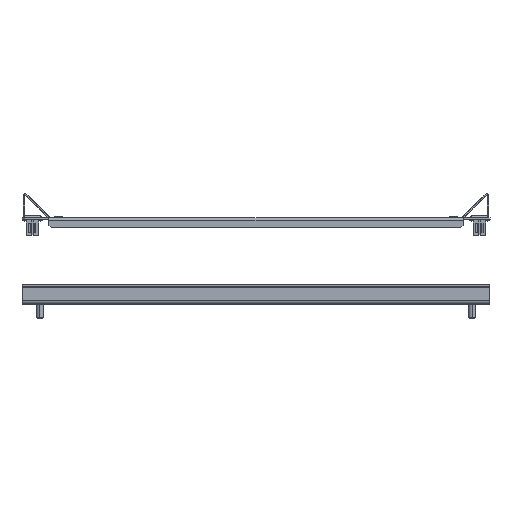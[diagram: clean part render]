
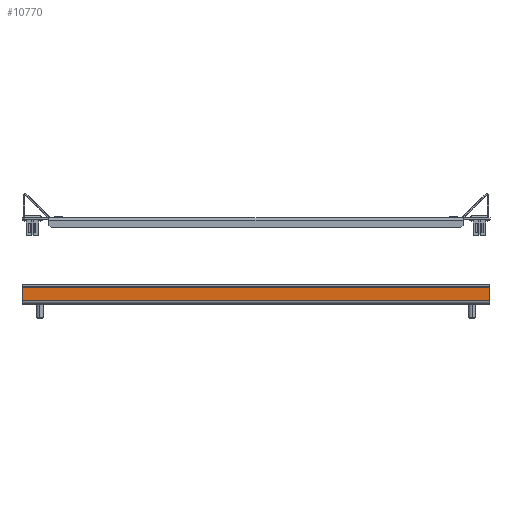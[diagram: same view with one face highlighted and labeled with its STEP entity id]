
A CAD part, front view. The second image highlights one B-rep face of the part: STEP entity #10770.
In plain terms, the highlighted planar face has unit normal (0, -1, 0).
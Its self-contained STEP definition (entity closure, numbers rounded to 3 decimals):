
#527 = VERTEX_POINT ( 'NONE', #10907 ) ;
#687 = VERTEX_POINT ( 'NONE', #6438 ) ;
#1240 = DIRECTION ( 'NONE',  ( 0., 1., 0. ) ) ;
#1380 = LINE ( 'NONE', #16262, #20575 ) ;
#1855 = CARTESIAN_POINT ( 'NONE',  ( 175., -13.5, 12.5 ) ) ;
#2344 = AXIS2_PLACEMENT_3D ( 'NONE', #4506, #1240, #20990 ) ;
#2432 = VERTEX_POINT ( 'NONE', #2901 ) ;
#2901 = CARTESIAN_POINT ( 'NONE',  ( 175., -13.5, 2.5 ) ) ;
#3009 = VECTOR ( 'NONE', #3701, 1000. ) ;
#3701 = DIRECTION ( 'NONE',  ( -1., 0., 0. ) ) ;
#3754 = FACE_OUTER_BOUND ( 'NONE', #20269, .T. ) ;
#4005 = DIRECTION ( 'NONE',  ( 0., 0., -1. ) ) ;
#4007 = VECTOR ( 'NONE', #4005, 1000. ) ;
#4506 = CARTESIAN_POINT ( 'NONE',  ( 175., -13.5, 2.5 ) ) ;
#6120 = ORIENTED_EDGE ( 'NONE', *, *, #12625, .F. ) ;
#6438 = CARTESIAN_POINT ( 'NONE',  ( -175., -13.5, 12.5 ) ) ;
#6478 = DIRECTION ( 'NONE',  ( 0., 0., -1. ) ) ;
#7411 = ORIENTED_EDGE ( 'NONE', *, *, #13799, .F. ) ;
#7502 = VECTOR ( 'NONE', #7850, 1000. ) ;
#7850 = DIRECTION ( 'NONE',  ( -1., 0., 0. ) ) ;
#8555 = VERTEX_POINT ( 'NONE', #1855 ) ;
#10770 = ADVANCED_FACE ( 'NONE', ( #3754 ), #19383, .F. ) ;
#10907 = CARTESIAN_POINT ( 'NONE',  ( -175., -13.5, 2.5 ) ) ;
#11938 = ORIENTED_EDGE ( 'NONE', *, *, #19993, .T. ) ;
#11965 = CARTESIAN_POINT ( 'NONE',  ( 175., -13.5, 12.5 ) ) ;
#12264 = CARTESIAN_POINT ( 'NONE',  ( 175., -13.5, 2.5 ) ) ;
#12625 = EDGE_CURVE ( 'NONE', #2432, #527, #19035, .T. ) ;
#12897 = EDGE_CURVE ( 'NONE', #8555, #687, #15114, .T. ) ;
#13799 = EDGE_CURVE ( 'NONE', #8555, #2432, #18569, .T. ) ;
#15114 = LINE ( 'NONE', #11965, #3009 ) ;
#16262 = CARTESIAN_POINT ( 'NONE',  ( -175., -13.5, 2.5 ) ) ;
#18569 = LINE ( 'NONE', #12264, #4007 ) ;
#19035 = LINE ( 'NONE', #20966, #7502 ) ;
#19383 = PLANE ( 'NONE',  #2344 ) ;
#19993 = EDGE_CURVE ( 'NONE', #687, #527, #1380, .T. ) ;
#20269 = EDGE_LOOP ( 'NONE', ( #11938, #6120, #7411, #20647 ) ) ;
#20575 = VECTOR ( 'NONE', #6478, 1000. ) ;
#20647 = ORIENTED_EDGE ( 'NONE', *, *, #12897, .T. ) ;
#20966 = CARTESIAN_POINT ( 'NONE',  ( 175., -13.5, 2.5 ) ) ;
#20990 = DIRECTION ( 'NONE',  ( 0., 0., 1. ) ) ;
